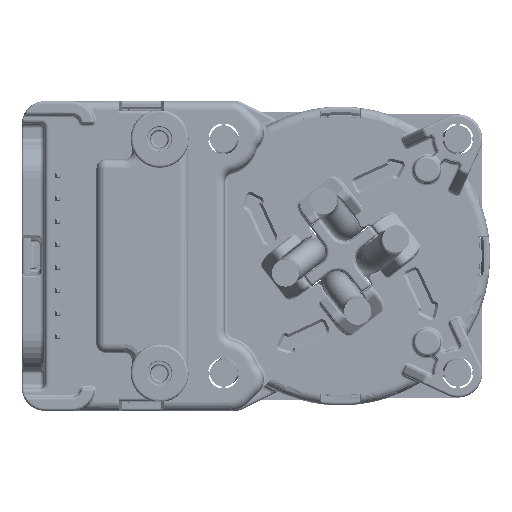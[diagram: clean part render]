
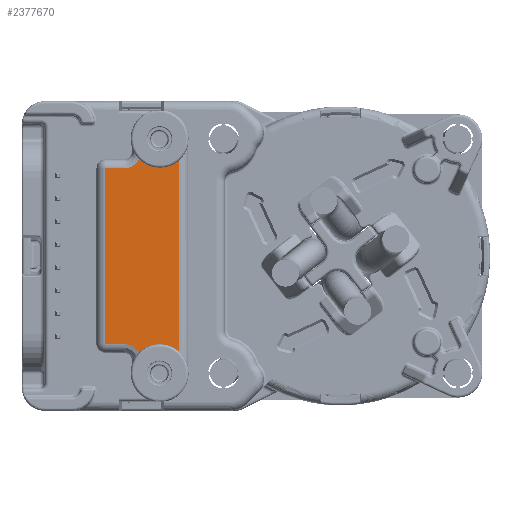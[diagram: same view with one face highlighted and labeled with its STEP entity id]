
A CAD part, left-side view. The second image highlights one B-rep face of the part: STEP entity #2377670.
In plain terms, the highlighted planar face has unit normal (-1, 0, 0).
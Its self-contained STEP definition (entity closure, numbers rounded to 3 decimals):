
#2376340=CARTESIAN_POINT('',(-3.207,21.331,
-0.904));
#2376350=DIRECTION('',(-1.,-0.,0.));
#2376360=DIRECTION('',(0.,-0.,-1.));
#2376370=AXIS2_PLACEMENT_3D('',#2376340,#2376350,#2376360);
#2376380=PLANE('',#2376370);
#2376390=CARTESIAN_POINT('',(-3.207,23.432,
-10.604));
#2376400=CARTESIAN_POINT('',(-3.207,23.398,
-10.604));
#2376410=CARTESIAN_POINT('',(-3.207,23.363,
-10.605));
#2376420=CARTESIAN_POINT('',(-3.207,23.295,
-10.609));
#2376430=CARTESIAN_POINT('',(-3.207,23.26,
-10.611));
#2376440=CARTESIAN_POINT('',(-3.207,23.156,
-10.623));
#2376450=CARTESIAN_POINT('',(-3.207,23.087,
-10.634));
#2376460=CARTESIAN_POINT('',(-3.207,22.949,
-10.663));
#2376470=CARTESIAN_POINT('',(-3.207,22.881,
-10.682));
#2376480=CARTESIAN_POINT('',(-3.207,22.748,
-10.726));
#2376490=CARTESIAN_POINT('',(-3.207,22.682,
-10.752));
#2376500=CARTESIAN_POINT('',(-3.207,22.554,
-10.81));
#2376510=CARTESIAN_POINT('',(-3.207,22.492,
-10.842));
#2376520=CARTESIAN_POINT('',(-3.207,22.371,
-10.914));
#2376530=CARTESIAN_POINT('',(-3.207,22.312,
-10.953));
#2376540=CARTESIAN_POINT('',(-3.207,22.199,
-11.037));
#2376550=CARTESIAN_POINT('',(-3.207,22.145,
-11.081));
#2376560=CARTESIAN_POINT('',(-3.207,22.042,
-11.177));
#2376570=CARTESIAN_POINT('',(-3.207,21.992,
-11.227));
#2376580=CARTESIAN_POINT('',(-3.207,21.9,
-11.333));
#2376590=CARTESIAN_POINT('',(-3.207,21.856,
-11.388));
#2376600=CARTESIAN_POINT('',(-3.207,21.776,
-11.504));
#2376610=CARTESIAN_POINT('',(-3.207,21.738,
-11.563));
#2376620=CARTESIAN_POINT('',(-3.207,21.67,
-11.686));
#2376630=CARTESIAN_POINT('',(-3.207,21.639,
-11.75));
#2376640=CARTESIAN_POINT('',(-3.207,21.585,
-11.879));
#2376650=CARTESIAN_POINT('',(-3.207,21.561,
-11.945));
#2376660=CARTESIAN_POINT('',(-3.207,21.52,
-12.08));
#2376670=CARTESIAN_POINT('',(-3.207,21.503,
-12.148));
#2376680=CARTESIAN_POINT('',(-3.207,21.477,
-12.287));
#2376690=CARTESIAN_POINT('',(-3.207,21.468,
-12.356));
#2376700=CARTESIAN_POINT('',(-3.207,21.458,
-12.479));
#2376710=CARTESIAN_POINT('',(-3.207,21.457,
-12.532));
#2376720=CARTESIAN_POINT('',(-3.207,21.456,
-12.585));
#2376730=B_SPLINE_CURVE_WITH_KNOTS('',3,(#2376390,#2376400,#2376410,
#2376420,#2376430,#2376440,#2376450,#2376460,#2376470,#2376480,#2376490,
#2376500,#2376510,#2376520,#2376530,#2376540,#2376550,#2376560,#2376570,
#2376580,#2376590,#2376600,#2376610,#2376620,#2376630,#2376640,#2376650,
#2376660,#2376670,#2376680,#2376690,#2376700,#2376710,#2376720),
.UNSPECIFIED.,.F.,.F.,(4,2,2,2,2,2,2,2,2,2,2,2,2,2,2,2,4),(0.,
0.052,0.104,0.21,0.317
,0.423,0.53,0.636,0.743,
0.849,0.956,1.062,1.169,
1.275,1.382,1.488,1.568),
.UNSPECIFIED.);
#2376740=CARTESIAN_POINT('',(-3.207,23.432,
-10.604));
#2376750=VERTEX_POINT('',#2376740);
#2376760=CARTESIAN_POINT('',(-3.207,21.716,
-11.603));
#2376770=VERTEX_POINT('',#2376760);
#2376780=EDGE_CURVE('',#2376750,#2376770,#2376730,.T.);
#2376790=ORIENTED_EDGE('',*,*,#2376780,.T.);
#2376800=CARTESIAN_POINT('',(-3.207,24.925,
-10.602));
#2376810=DIRECTION('',(0.,-1.,-0.002));
#2376820=VECTOR('',#2376810,1.);
#2376830=LINE('',#2376800,#2376820);
#2376840=CARTESIAN_POINT('',(-3.207,25.42,
-10.601));
#2376850=VERTEX_POINT('',#2376840);
#2376860=EDGE_CURVE('',#2376850,#2376750,#2376830,.T.);
#2376870=ORIENTED_EDGE('',*,*,#2376860,.T.);
#2376880=CARTESIAN_POINT('',(-3.207,25.419,
-0.917));
#2376890=DIRECTION('',(0.,0.,-1.));
#2376900=VECTOR('',#2376890,1.);
#2376910=LINE('',#2376880,#2376900);
#2376920=CARTESIAN_POINT('',(-3.207,25.417,
8.766));
#2376930=VERTEX_POINT('',#2376920);
#2376940=EDGE_CURVE('',#2376930,#2376850,#2376910,.T.);
#2376950=ORIENTED_EDGE('',*,*,#2376940,.T.);
#2376960=CARTESIAN_POINT('',(-3.207,23.427,
8.766));
#2376970=DIRECTION('',(0.,1.,0.));
#2376980=VECTOR('',#2376970,1.);
#2376990=LINE('',#2376960,#2376980);
#2377000=CARTESIAN_POINT('',(-3.207,23.427,
8.766));
#2377010=VERTEX_POINT('',#2377000);
#2377020=EDGE_CURVE('',#2377010,#2376930,#2376990,.T.);
#2377030=ORIENTED_EDGE('',*,*,#2377020,.T.);
#2377040=CARTESIAN_POINT('',(-3.207,23.427,
8.766));
#2377050=CARTESIAN_POINT('',(-3.207,23.356,
8.767));
#2377060=CARTESIAN_POINT('',(-3.207,23.286,
8.77));
#2377070=CARTESIAN_POINT('',(-3.207,23.146,
8.785));
#2377080=CARTESIAN_POINT('',(-3.207,23.077,
8.796));
#2377090=CARTESIAN_POINT('',(-3.207,22.939,
8.826));
#2377100=CARTESIAN_POINT('',(-3.207,22.872,
8.844));
#2377110=CARTESIAN_POINT('',(-3.207,22.738,
8.889));
#2377120=CARTESIAN_POINT('',(-3.207,22.673,
8.914));
#2377130=CARTESIAN_POINT('',(-3.207,22.545,
8.972));
#2377140=CARTESIAN_POINT('',(-3.207,22.482,
9.005));
#2377150=CARTESIAN_POINT('',(-3.207,22.361,
9.076));
#2377160=CARTESIAN_POINT('',(-3.207,22.302,
9.115));
#2377170=CARTESIAN_POINT('',(-3.207,22.19,
9.199));
#2377180=CARTESIAN_POINT('',(-3.207,22.136,
9.244));
#2377190=CARTESIAN_POINT('',(-3.207,22.032,
9.339));
#2377200=CARTESIAN_POINT('',(-3.207,21.983,
9.389));
#2377210=CARTESIAN_POINT('',(-3.207,21.891,
9.495));
#2377220=CARTESIAN_POINT('',(-3.207,21.847,
9.551));
#2377230=CARTESIAN_POINT('',(-3.207,21.766,
9.666));
#2377240=CARTESIAN_POINT('',(-3.207,21.729,
9.725));
#2377250=CARTESIAN_POINT('',(-3.207,21.661,
9.848));
#2377260=CARTESIAN_POINT('',(-3.207,21.63,
9.911));
#2377270=CARTESIAN_POINT('',(-3.207,21.576,
10.041));
#2377280=CARTESIAN_POINT('',(-3.207,21.552,
10.107));
#2377290=CARTESIAN_POINT('',(-3.207,21.511,
10.242));
#2377300=CARTESIAN_POINT('',(-3.207,21.494,
10.31));
#2377310=CARTESIAN_POINT('',(-3.207,21.468,
10.448));
#2377320=CARTESIAN_POINT('',(-3.207,21.459,
10.518));
#2377330=CARTESIAN_POINT('',(-3.207,21.449,
10.64));
#2377340=CARTESIAN_POINT('',(-3.207,21.447,
10.693));
#2377350=CARTESIAN_POINT('',(-3.207,21.447,
10.746));
#2377360=B_SPLINE_CURVE_WITH_KNOTS('',3,(#2377040,#2377050,#2377060,
#2377070,#2377080,#2377090,#2377100,#2377110,#2377120,#2377130,#2377140,
#2377150,#2377160,#2377170,#2377180,#2377190,#2377200,#2377210,#2377220,
#2377230,#2377240,#2377250,#2377260,#2377270,#2377280,#2377290,#2377300,
#2377310,#2377320,#2377330,#2377340,#2377350),.UNSPECIFIED.,.F.,.F.,(4,2
,2,2,2,2,2,2,2,2,2,2,2,2,2,4),(0.,0.107,0.213,
0.32,0.426,0.532,0.639,
0.745,0.852,0.958,1.065,
1.171,1.278,1.384,1.491,
1.571),.UNSPECIFIED.);
#2377370=CARTESIAN_POINT('',(-3.207,21.699,
9.779));
#2377380=VERTEX_POINT('',#2377370);
#2377390=EDGE_CURVE('',#2377010,#2377380,#2377360,.T.);
#2377400=ORIENTED_EDGE('',*,*,#2377390,.F.);
#2377410=CARTESIAN_POINT('',(-3.207,19.431,
12.036));
#2377420=DIRECTION('',(-1.,0.,0.))
;
#2377430=DIRECTION('',(0.,-1.,0.));
#2377440=AXIS2_PLACEMENT_3D('',#2377410,#2377420,#2377430);
#2377450=CIRCLE('',#2377440,3.2);
#2377460=CARTESIAN_POINT('',(-3.207,17.242,
9.702));
#2377470=VERTEX_POINT('',#2377460);
#2377480=EDGE_CURVE('',#2377380,#2377470,#2377450,.T.);
#2377490=ORIENTED_EDGE('',*,*,#2377480,.F.);
#2377500=CARTESIAN_POINT('',(-3.207,17.242,
-0.904));
#2377510=DIRECTION('',(0.,0.,-1.));
#2377520=VECTOR('',#2377510,1.);
#2377530=LINE('',#2377500,#2377520);
#2377540=CARTESIAN_POINT('',(-3.207,17.242,
-11.51));
#2377550=VERTEX_POINT('',#2377540);
#2377560=EDGE_CURVE('',#2377470,#2377550,#2377530,.T.);
#2377570=ORIENTED_EDGE('',*,*,#2377560,.F.);
#2377580=CARTESIAN_POINT('',(-3.207,19.431,
-13.844));
#2377590=DIRECTION('',(-1.,0.,0.))
;
#2377600=DIRECTION('',(0.,-1.,0.));
#2377610=AXIS2_PLACEMENT_3D('',#2377580,#2377590,#2377600);
#2377620=CIRCLE('',#2377610,3.2);
#2377630=EDGE_CURVE('',#2377550,#2376770,#2377620,.T.);
#2377640=ORIENTED_EDGE('',*,*,#2377630,.F.);
#2377650=EDGE_LOOP('',(#2377640,#2377570,#2377490,#2377400,#2377030,
#2376950,#2376870,#2376790));
#2377660=FACE_OUTER_BOUND('',#2377650,.T.);
#2377670=ADVANCED_FACE('',(#2377660),#2376380,.T.);
